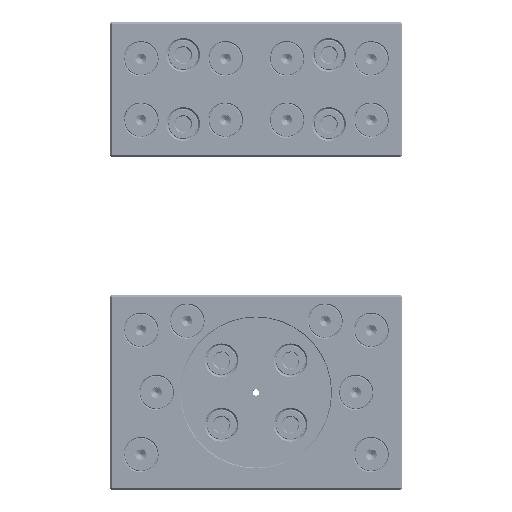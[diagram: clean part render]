
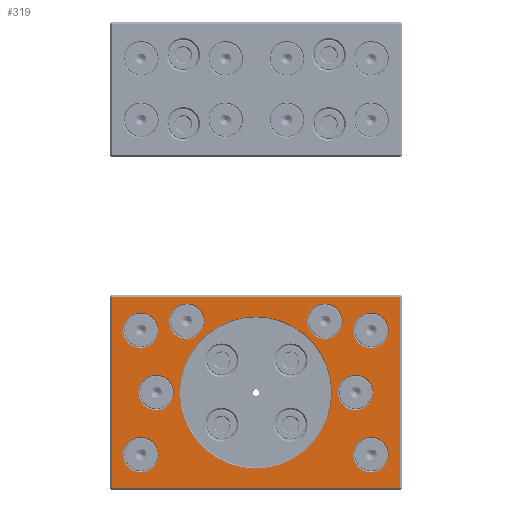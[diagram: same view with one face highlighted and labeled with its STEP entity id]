
A CAD part, top view. The second image highlights one B-rep face of the part: STEP entity #319.
In plain terms, the highlighted planar face has unit normal (0, 0, 1).
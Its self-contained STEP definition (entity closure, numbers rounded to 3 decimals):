
#319=ADVANCED_FACE('',(#12206,#12208,#12210,#12212,#12214,#12216,#12218,#12220,#12222,
#12224),#12226,.T.);
#12206=FACE_BOUND('',#12207,.T.);
#12207=EDGE_LOOP('',(#36858,#36859,#36860,#36861,#36862,#36863,#36864,#36865));
#12208=FACE_BOUND('',#12209,.T.);
#12209=EDGE_LOOP('',(#36866));
#12210=FACE_BOUND('',#12211,.T.);
#12211=EDGE_LOOP('',(#36867));
#12212=FACE_BOUND('',#12213,.T.);
#12213=EDGE_LOOP('',(#36868));
#12214=FACE_BOUND('',#12215,.T.);
#12215=EDGE_LOOP('',(#36869));
#12216=FACE_BOUND('',#12217,.T.);
#12217=EDGE_LOOP('',(#36870));
#12218=FACE_BOUND('',#12219,.T.);
#12219=EDGE_LOOP('',(#36871));
#12220=FACE_BOUND('',#12221,.T.);
#12221=EDGE_LOOP('',(#36872));
#12222=FACE_BOUND('',#12223,.T.);
#12223=EDGE_LOOP('',(#36873));
#12224=FACE_BOUND('',#12225,.T.);
#12225=EDGE_LOOP('',(#36874));
#12226=PLANE('',#12227);
#12227=AXIS2_PLACEMENT_3D('',#12228,#12229,#12230);
#12228=CARTESIAN_POINT('',(151.719,249.295,10.208));
#12229=DIRECTION('',(0.,0.,1.));
#12230=DIRECTION('',(0.,1.,0.));
#36858=ORIENTED_EDGE('',*,*,#43014,.F.);
#36859=ORIENTED_EDGE('',*,*,#43015,.F.);
#36860=ORIENTED_EDGE('',*,*,#43016,.F.);
#36861=ORIENTED_EDGE('',*,*,#43017,.T.);
#36862=ORIENTED_EDGE('',*,*,#43018,.F.);
#36863=ORIENTED_EDGE('',*,*,#43019,.T.);
#36864=ORIENTED_EDGE('',*,*,#43020,.F.);
#36865=ORIENTED_EDGE('',*,*,#43021,.F.);
#36866=ORIENTED_EDGE('',*,*,#43022,.T.);
#36867=ORIENTED_EDGE('',*,*,#43023,.T.);
#36868=ORIENTED_EDGE('',*,*,#43024,.T.);
#36869=ORIENTED_EDGE('',*,*,#42976,.T.);
#36870=ORIENTED_EDGE('',*,*,#43025,.T.);
#36871=ORIENTED_EDGE('',*,*,#43026,.T.);
#36872=ORIENTED_EDGE('',*,*,#43027,.T.);
#36873=ORIENTED_EDGE('',*,*,#43028,.T.);
#36874=ORIENTED_EDGE('',*,*,#43029,.T.);
#42976=EDGE_CURVE('',#46100,#46100,#46101,.F.);
#43014=EDGE_CURVE('',#46168,#46169,#46170,.T.);
#43015=EDGE_CURVE('',#46171,#46168,#46172,.T.);
#43016=EDGE_CURVE('',#46173,#46171,#46174,.T.);
#43017=EDGE_CURVE('',#46173,#46175,#46176,.T.);
#43018=EDGE_CURVE('',#46177,#46175,#46178,.F.);
#43019=EDGE_CURVE('',#46177,#46179,#46180,.T.);
#43020=EDGE_CURVE('',#46181,#46179,#46182,.F.);
#43021=EDGE_CURVE('',#46169,#46181,#46183,.T.);
#43022=EDGE_CURVE('',#46184,#46184,#46185,.F.);
#43023=EDGE_CURVE('',#46186,#46186,#46187,.F.);
#43024=EDGE_CURVE('',#46188,#46188,#46189,.F.);
#43025=EDGE_CURVE('',#46190,#46190,#46191,.F.);
#43026=EDGE_CURVE('',#46192,#46192,#46193,.F.);
#43027=EDGE_CURVE('',#46194,#46194,#46195,.F.);
#43028=EDGE_CURVE('',#46196,#46196,#46197,.F.);
#43029=EDGE_CURVE('',#46198,#46198,#46199,.F.);
#46100=VERTEX_POINT('',#51390);
#46101=CIRCLE('',#51391,11.5);
#46168=VERTEX_POINT('',#51556);
#46169=VERTEX_POINT('',#51557);
#46170=LINE('',#51558,#51559);
#46171=VERTEX_POINT('',#51561);
#46172=LINE('',#51562,#51563);
#46173=VERTEX_POINT('',#51565);
#46174=LINE('',#51566,#51567);
#46175=VERTEX_POINT('',#51569);
#46176=LINE('',#51570,#51571);
#46177=VERTEX_POINT('',#51573);
#46178=LINE('',#51574,#51575);
#46179=VERTEX_POINT('',#51577);
#46180=LINE('',#51578,#51579);
#46181=VERTEX_POINT('',#51581);
#46182=LINE('',#51582,#51583);
#46183=LINE('',#51585,#51586);
#46184=VERTEX_POINT('',#51588);
#46185=CIRCLE('',#51589,11.5);
#46186=VERTEX_POINT('',#51593);
#46187=CIRCLE('',#51594,11.5);
#46188=VERTEX_POINT('',#51598);
#46189=CIRCLE('',#51599,11.5);
#46190=VERTEX_POINT('',#51603);
#46191=CIRCLE('',#51604,11.5);
#46192=VERTEX_POINT('',#51608);
#46193=CIRCLE('',#51609,11.5);
#46194=VERTEX_POINT('',#51613);
#46195=CIRCLE('',#51614,11.5);
#46196=VERTEX_POINT('',#51618);
#46197=CIRCLE('',#51619,11.5);
#46198=VERTEX_POINT('',#51623);
#46199=CIRCLE('',#51624,49.5);
#51390=CARTESIAN_POINT('',(171.719,156.795,10.208));
#51391=AXIS2_PLACEMENT_3D('',#51392,#51393,#51394);
#51392=CARTESIAN_POINT('',(171.719,145.295,10.208));
#51393=DIRECTION('',(0.,0.,1.));
#51394=DIRECTION('',(0.,1.,0.));
#51556=CARTESIAN_POINT('',(152.719,123.71,10.208));
#51557=CARTESIAN_POINT('',(152.719,247.881,10.208));
#51558=CARTESIAN_POINT('',(152.719,123.71,10.208));
#51559=VECTOR('',#51560,1.);
#51560=DIRECTION('',(0.,1.,0.));
#51561=CARTESIAN_POINT('',(153.133,123.295,10.208));
#51562=CARTESIAN_POINT('',(153.133,123.295,10.208));
#51563=VECTOR('',#51564,1.);
#51564=DIRECTION('',(-0.707,0.707,0.));
#51565=CARTESIAN_POINT('',(340.305,123.295,10.208));
#51566=CARTESIAN_POINT('',(340.305,123.295,10.208));
#51567=VECTOR('',#51568,1.);
#51568=DIRECTION('',(-1.,0.,0.));
#51569=CARTESIAN_POINT('',(340.719,123.71,10.208));
#51570=CARTESIAN_POINT('',(340.305,123.295,10.208));
#51571=VECTOR('',#51572,1.);
#51572=DIRECTION('',(0.707,0.707,0.));
#51573=CARTESIAN_POINT('',(340.719,247.881,10.208));
#51574=CARTESIAN_POINT('',(340.719,123.71,10.208));
#51575=VECTOR('',#51576,1.);
#51576=DIRECTION('',(0.,1.,0.));
#51577=CARTESIAN_POINT('',(340.305,248.295,10.208));
#51578=CARTESIAN_POINT('',(340.719,247.881,10.208));
#51579=VECTOR('',#51580,1.);
#51580=DIRECTION('',(-0.707,0.707,0.));
#51581=CARTESIAN_POINT('',(153.133,248.295,10.208));
#51582=CARTESIAN_POINT('',(340.305,248.295,10.208));
#51583=VECTOR('',#51584,1.);
#51584=DIRECTION('',(-1.,0.,0.));
#51585=CARTESIAN_POINT('',(152.719,247.881,10.208));
#51586=VECTOR('',#51587,1.);
#51587=DIRECTION('',(0.707,0.707,0.));
#51588=CARTESIAN_POINT('',(171.719,237.795,10.208));
#51589=AXIS2_PLACEMENT_3D('',#51590,#51591,#51592);
#51590=CARTESIAN_POINT('',(171.719,226.295,10.208));
#51591=DIRECTION('',(0.,0.,1.));
#51592=DIRECTION('',(0.,1.,0.));
#51593=CARTESIAN_POINT('',(201.719,243.795,10.208));
#51594=AXIS2_PLACEMENT_3D('',#51595,#51596,#51597);
#51595=CARTESIAN_POINT('',(201.719,232.295,10.208));
#51596=DIRECTION('',(0.,0.,1.));
#51597=DIRECTION('',(0.,1.,0.));
#51598=CARTESIAN_POINT('',(181.719,197.295,10.208));
#51599=AXIS2_PLACEMENT_3D('',#51600,#51601,#51602);
#51600=CARTESIAN_POINT('',(181.719,185.795,10.208));
#51601=DIRECTION('',(0.,0.,1.));
#51602=DIRECTION('',(0.,1.,0.));
#51603=CARTESIAN_POINT('',(291.719,243.795,10.208));
#51604=AXIS2_PLACEMENT_3D('',#51605,#51606,#51607);
#51605=CARTESIAN_POINT('',(291.719,232.295,10.208));
#51606=DIRECTION('',(0.,0.,1.));
#51607=DIRECTION('',(0.,1.,0.));
#51608=CARTESIAN_POINT('',(321.719,237.795,10.208));
#51609=AXIS2_PLACEMENT_3D('',#51610,#51611,#51612);
#51610=CARTESIAN_POINT('',(321.719,226.295,10.208));
#51611=DIRECTION('',(0.,0.,1.));
#51612=DIRECTION('',(0.,1.,0.));
#51613=CARTESIAN_POINT('',(311.719,197.295,10.208));
#51614=AXIS2_PLACEMENT_3D('',#51615,#51616,#51617);
#51615=CARTESIAN_POINT('',(311.719,185.795,10.208));
#51616=DIRECTION('',(0.,0.,1.));
#51617=DIRECTION('',(0.,1.,0.));
#51618=CARTESIAN_POINT('',(321.719,156.795,10.208));
#51619=AXIS2_PLACEMENT_3D('',#51620,#51621,#51622);
#51620=CARTESIAN_POINT('',(321.719,145.295,10.208));
#51621=DIRECTION('',(0.,0.,1.));
#51622=DIRECTION('',(0.,1.,0.));
#51623=CARTESIAN_POINT('',(246.719,235.295,10.208));
#51624=AXIS2_PLACEMENT_3D('',#51625,#51626,#51627);
#51625=CARTESIAN_POINT('',(246.719,185.795,10.208));
#51626=DIRECTION('',(0.,0.,1.));
#51627=DIRECTION('',(0.,1.,0.));
